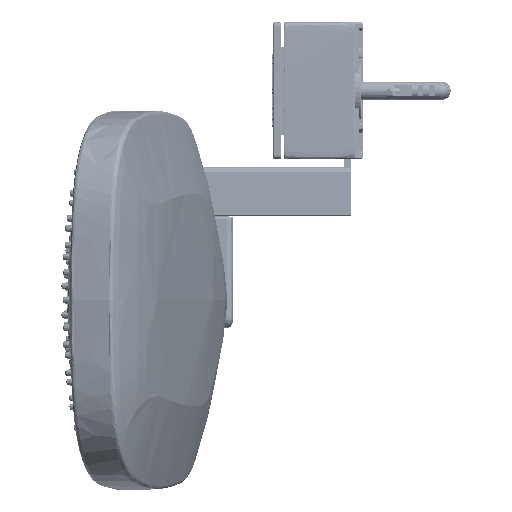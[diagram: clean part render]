
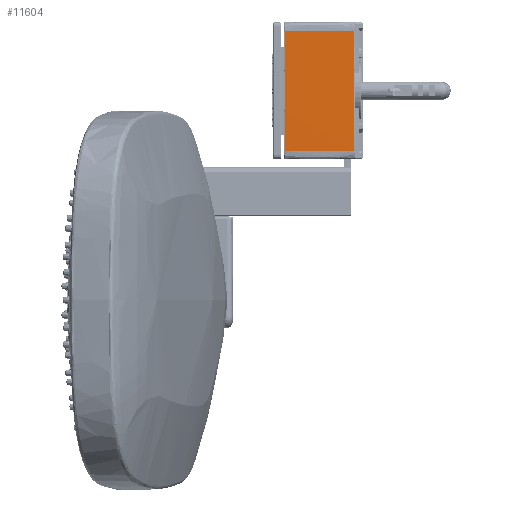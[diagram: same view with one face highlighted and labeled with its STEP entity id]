
A CAD part, front view. The second image highlights one B-rep face of the part: STEP entity #11604.
In plain terms, the highlighted toroidal (fillet/blend) face has major radius 670.356 mm and minor radius 250.211 mm.
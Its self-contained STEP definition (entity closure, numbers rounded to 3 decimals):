
#1239=TOROIDAL_SURFACE('',#166705,670.356,250.211);
#11604=ADVANCED_FACE('',(#23952),#1239,.T.);
#23952=FACE_OUTER_BOUND('',#33041,.T.);
#33041=EDGE_LOOP('',(#59494,#59495,#59496,#59497));
#43240=CIRCLE('',#166346,920.281);
#50558=B_SPLINE_CURVE_WITH_KNOTS('',3,(#226736,#226737,#226738,#226739),
 .UNSPECIFIED.,.F.,.F.,(4,4),(0.,1.),.UNSPECIFIED.);
#50666=B_SPLINE_CURVE_WITH_KNOTS('',5,(#229905,#229906,#229907,#229908,
#229909,#229910,#229911,#229912),.UNSPECIFIED.,.F.,.F.,(6,1,1,6),(0.,0.307,
0.671,1.),.UNSPECIFIED.);
#50667=B_SPLINE_CURVE_WITH_KNOTS('',3,(#230235,#230236,#230237,#230238),
 .UNSPECIFIED.,.F.,.F.,(4,4),(0.,1.),.UNSPECIFIED.);
#59494=ORIENTED_EDGE('',*,*,#121501,.T.);
#59495=ORIENTED_EDGE('',*,*,#121492,.F.);
#59496=ORIENTED_EDGE('',*,*,#122066,.F.);
#59497=ORIENTED_EDGE('',*,*,#122067,.T.);
#106036=VERTEX_POINT('',#226423);
#106040=VERTEX_POINT('',#226563);
#106042=VERTEX_POINT('',#226576);
#106364=VERTEX_POINT('',#229804);
#121492=EDGE_CURVE('',#106036,#106040,#43240,.T.);
#121501=EDGE_CURVE('',#106042,#106040,#50558,.T.);
#122066=EDGE_CURVE('',#106364,#106036,#50666,.T.);
#122067=EDGE_CURVE('',#106364,#106042,#50667,.T.);
#166346=AXIS2_PLACEMENT_3D('',#226562,#183077,#183078);
#166705=AXIS2_PLACEMENT_3D('',#230239,#184119,#184120);
#183077=DIRECTION('',(0.,0.,1.));
#183078=DIRECTION('',(0.022,1.,0.));
#184119=DIRECTION('',(0.,0.,1.));
#184120=DIRECTION('',(1.,0.,0.));
#226423=CARTESIAN_POINT('',(20.536,2.785,19.702));
#226562=CARTESIAN_POINT('',(0.,-917.267,19.702));
#226563=CARTESIAN_POINT('',(-20.536,2.785,19.702));
#226576=CARTESIAN_POINT('',(-20.536,2.794,-4.013));
#226736=CARTESIAN_POINT('',(-20.536,2.794,-4.013));
#226737=CARTESIAN_POINT('',(-20.535,3.166,3.887));
#226738=CARTESIAN_POINT('',(-20.535,3.163,11.804));
#226739=CARTESIAN_POINT('',(-20.536,2.785,19.702));
#229804=CARTESIAN_POINT('',(20.536,2.794,-4.013));
#229905=CARTESIAN_POINT('',(20.536,2.794,-4.013));
#229906=CARTESIAN_POINT('',(20.536,2.863,-2.56));
#229907=CARTESIAN_POINT('',(20.535,2.989,0.623));
#229908=CARTESIAN_POINT('',(20.535,3.102,5.367));
#229909=CARTESIAN_POINT('',(20.535,3.103,10.113));
#229910=CARTESIAN_POINT('',(20.535,2.991,14.857));
#229911=CARTESIAN_POINT('',(20.536,2.86,18.145));
#229912=CARTESIAN_POINT('',(20.536,2.785,19.702));
#230235=CARTESIAN_POINT('',(20.536,2.794,-4.012));
#230236=CARTESIAN_POINT('',(6.848,3.1,-4.012));
#230237=CARTESIAN_POINT('',(-6.848,3.1,-4.012));
#230238=CARTESIAN_POINT('',(-20.536,2.794,-4.012));
#230239=CARTESIAN_POINT('',(0.,-917.267,7.75));
